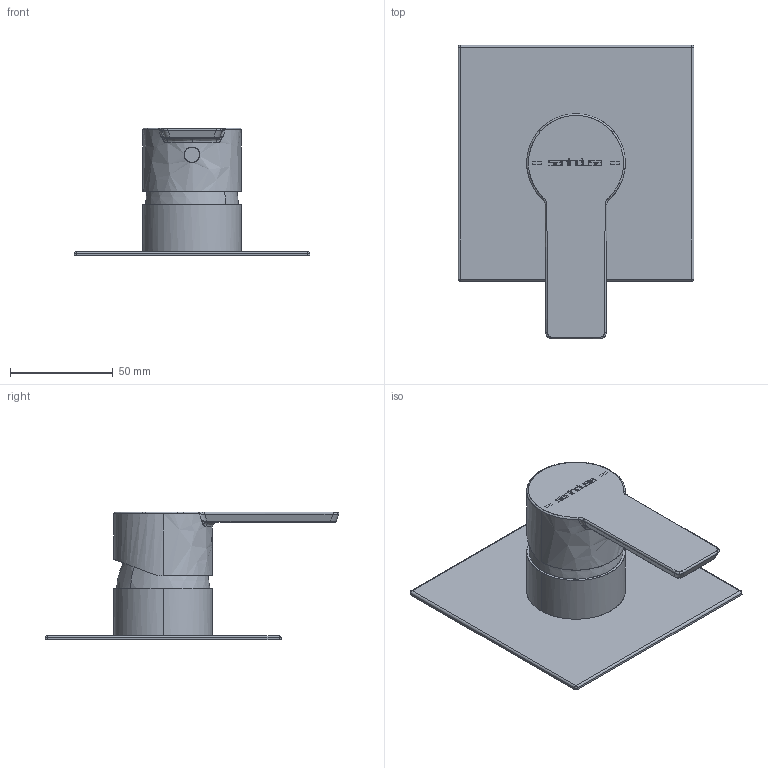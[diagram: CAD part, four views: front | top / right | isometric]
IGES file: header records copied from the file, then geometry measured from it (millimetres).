
Start section: SolidWorks IGES file using NURBS representation for surfaces
Global section: file name: \\IBMGRAU\Projectos\01-TORNEIRAS\MASTER 40\5257101C - mist. encast. 3v esp. quadr\biblioteca 3D\5257101C_igs.IGS; native system: SolidWorks 2019; preprocessor: SolidWorks 2019; author: Julio; date: 190403.180218; units: millimetre
Bounding box: 115 x 143.16 x 62.29 mm (x, y, z)
Surface area: 40757.4 mm2 (no closed solid volume)
Topology: 0 solids, 0 shells, 221 faces, 1979 edges, 1973 vertices
Faces by surface type: bspline 221
